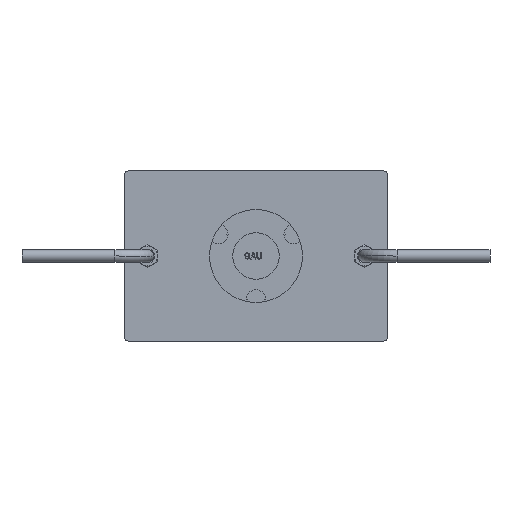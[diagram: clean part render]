
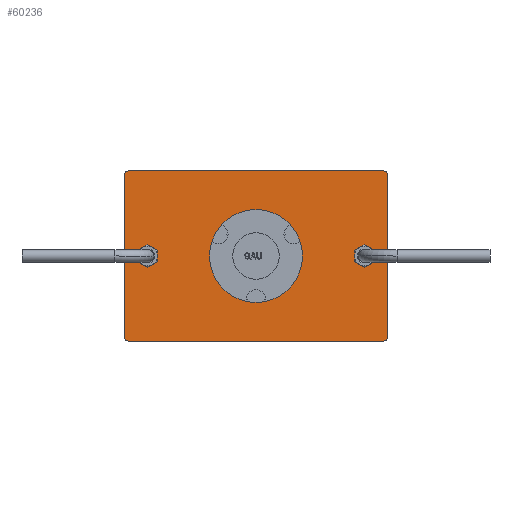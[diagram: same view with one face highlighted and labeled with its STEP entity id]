
A CAD part, front view. The second image highlights one B-rep face of the part: STEP entity #60236.
In plain terms, the highlighted planar face has unit normal (0, -1, 0) as drawn and (0, 0, 1) by its records, which use the part's own axes.
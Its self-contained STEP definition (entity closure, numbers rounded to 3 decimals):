
#59944=CARTESIAN_POINT('',(52.,82.,2.));
#59945=DIRECTION('',(0.,0.,1.));
#59946=DIRECTION('',(1.,0.,0.));
#59947=AXIS2_PLACEMENT_3D('',#59944,#59945,#59946);
#59949=DIRECTION('',(0.,1.,0.));
#59950=VECTOR('',#59949,164.);
#59951=CARTESIAN_POINT('',(55.,-82.,2.));
#59952=LINE('',#59951,#59950);
#59953=CARTESIAN_POINT('',(52.,-82.,2.));
#59954=DIRECTION('',(0.,0.,1.));
#59955=DIRECTION('',(0.,-1.,0.));
#59956=AXIS2_PLACEMENT_3D('',#59953,#59954,#59955);
#59958=DIRECTION('',(1.,0.,0.));
#59959=VECTOR('',#59958,104.);
#59960=CARTESIAN_POINT('',(-52.,-85.,2.));
#59961=LINE('',#59960,#59959);
#59962=CARTESIAN_POINT('',(-52.,-82.,2.));
#59963=DIRECTION('',(0.,0.,1.));
#59964=DIRECTION('',(-1.,0.,0.));
#59965=AXIS2_PLACEMENT_3D('',#59962,#59963,#59964);
#59967=DIRECTION('',(0.,-1.,0.));
#59968=VECTOR('',#59967,164.);
#59969=CARTESIAN_POINT('',(-55.,82.,2.));
#59970=LINE('',#59969,#59968);
#59971=CARTESIAN_POINT('',(-52.,82.,2.));
#59972=DIRECTION('',(0.,0.,1.));
#59973=DIRECTION('',(0.,1.,0.));
#59974=AXIS2_PLACEMENT_3D('',#59971,#59972,#59973);
#59976=DIRECTION('',(-1.,0.,0.));
#59977=VECTOR('',#59976,104.);
#59978=CARTESIAN_POINT('',(52.,85.,2.));
#59979=LINE('',#59978,#59977);
#59980=CARTESIAN_POINT('',(0.,70.,2.));
#59981=DIRECTION('',(0.,0.,-1.));
#59982=DIRECTION('',(1.,0.,0.));
#59983=AXIS2_PLACEMENT_3D('',#59980,#59981,#59982);
#59985=CARTESIAN_POINT('',(0.,70.,2.));
#59986=DIRECTION('',(0.,0.,-1.));
#59987=DIRECTION('',(-1.,0.,0.));
#59988=AXIS2_PLACEMENT_3D('',#59985,#59986,#59987);
#59990=CARTESIAN_POINT('',(0.,-70.,2.));
#59991=DIRECTION('',(0.,0.,-1.));
#59992=DIRECTION('',(1.,0.,0.));
#59993=AXIS2_PLACEMENT_3D('',#59990,#59991,#59992);
#59995=CARTESIAN_POINT('',(0.,-70.,2.));
#59996=DIRECTION('',(0.,0.,-1.));
#59997=DIRECTION('',(-1.,0.,0.));
#59998=AXIS2_PLACEMENT_3D('',#59995,#59996,#59997);
#60000=CARTESIAN_POINT('',(0.,0.,2.));
#60001=DIRECTION('',(0.,0.,-1.));
#60002=DIRECTION('',(1.,0.,0.));
#60003=AXIS2_PLACEMENT_3D('',#60000,#60001,#60002);
#60005=CARTESIAN_POINT('',(0.,0.,2.));
#60006=DIRECTION('',(0.,0.,-1.));
#60007=DIRECTION('',(-1.,0.,0.));
#60008=AXIS2_PLACEMENT_3D('',#60005,#60006,#60007);
#60124=CARTESIAN_POINT('',(-30.,0.,2.));
#60125=CARTESIAN_POINT('',(30.,0.,2.));
#60126=VERTEX_POINT('',#60124);
#60127=VERTEX_POINT('',#60125);
#60128=CARTESIAN_POINT('',(52.,-85.,2.));
#60129=CARTESIAN_POINT('',(55.,-82.,2.));
#60130=VERTEX_POINT('',#60128);
#60131=VERTEX_POINT('',#60129);
#60133=CARTESIAN_POINT('',(-52.,-85.,2.));
#60135=VERTEX_POINT('',#60133);
#60143=CARTESIAN_POINT('',(52.,85.,2.));
#60145=VERTEX_POINT('',#60143);
#60148=CARTESIAN_POINT('',(55.,82.,2.));
#60149=VERTEX_POINT('',#60148);
#60150=CARTESIAN_POINT('',(-55.,82.,2.));
#60151=CARTESIAN_POINT('',(-55.,-82.,2.));
#60152=VERTEX_POINT('',#60150);
#60153=VERTEX_POINT('',#60151);
#60156=CARTESIAN_POINT('',(-52.,85.,2.));
#60157=VERTEX_POINT('',#60156);
#60166=CARTESIAN_POINT('',(-4.1,-70.,2.));
#60167=VERTEX_POINT('',#60166);
#60168=CARTESIAN_POINT('',(4.1,-70.,2.));
#60169=VERTEX_POINT('',#60168);
#60170=CARTESIAN_POINT('',(4.1,70.,2.));
#60171=CARTESIAN_POINT('',(-4.1,70.,2.));
#60172=VERTEX_POINT('',#60170);
#60173=VERTEX_POINT('',#60171);
#60196=CARTESIAN_POINT('',(0.,0.,2.));
#60197=DIRECTION('',(0.,0.,1.));
#60198=DIRECTION('',(1.,0.,0.));
#60199=AXIS2_PLACEMENT_3D('',#60196,#60197,#60198);
#60200=PLANE('',#60199);
#60202=ORIENTED_EDGE('',*,*,#60201,.F.);
#60204=ORIENTED_EDGE('',*,*,#60203,.F.);
#60205=ORIENTED_EDGE('',*,*,#60185,.F.);
#60207=ORIENTED_EDGE('',*,*,#60206,.F.);
#60209=ORIENTED_EDGE('',*,*,#60208,.F.);
#60211=ORIENTED_EDGE('',*,*,#60210,.F.);
#60213=ORIENTED_EDGE('',*,*,#60212,.F.);
#60215=ORIENTED_EDGE('',*,*,#60214,.F.);
#60216=EDGE_LOOP('',(#60202,#60204,#60205,#60207,#60209,#60211,#60213,#60215));
#60217=FACE_OUTER_BOUND('',#60216,.F.);
#60219=ORIENTED_EDGE('',*,*,#60218,.F.);
#60221=ORIENTED_EDGE('',*,*,#60220,.F.);
#60222=EDGE_LOOP('',(#60219,#60221));
#60223=FACE_BOUND('',#60222,.F.);
#60225=ORIENTED_EDGE('',*,*,#60224,.F.);
#60227=ORIENTED_EDGE('',*,*,#60226,.F.);
#60228=EDGE_LOOP('',(#60225,#60227));
#60229=FACE_BOUND('',#60228,.F.);
#60231=ORIENTED_EDGE('',*,*,#60230,.F.);
#60233=ORIENTED_EDGE('',*,*,#60232,.F.);
#60234=EDGE_LOOP('',(#60231,#60233));
#60235=FACE_BOUND('',#60234,.F.);
#60236=ADVANCED_FACE('',(#60217,#60223,#60229,#60235),#60200,.T.);
#59948=CIRCLE('',#59947,3.);
#59957=CIRCLE('',#59956,3.);
#59966=CIRCLE('',#59965,3.);
#59975=CIRCLE('',#59974,3.);
#59984=CIRCLE('',#59983,4.1);
#59989=CIRCLE('',#59988,4.1);
#59994=CIRCLE('',#59993,4.1);
#59999=CIRCLE('',#59998,4.1);
#60004=CIRCLE('',#60003,30.);
#60009=CIRCLE('',#60008,30.);
#60185=EDGE_CURVE('',#60130,#60131,#59957,.T.);
#60201=EDGE_CURVE('',#60149,#60145,#59948,.T.);
#60203=EDGE_CURVE('',#60131,#60149,#59952,.T.);
#60206=EDGE_CURVE('',#60135,#60130,#59961,.T.);
#60208=EDGE_CURVE('',#60153,#60135,#59966,.T.);
#60210=EDGE_CURVE('',#60152,#60153,#59970,.T.);
#60212=EDGE_CURVE('',#60157,#60152,#59975,.T.);
#60214=EDGE_CURVE('',#60145,#60157,#59979,.T.);
#60218=EDGE_CURVE('',#60172,#60173,#59984,.T.);
#60220=EDGE_CURVE('',#60173,#60172,#59989,.T.);
#60224=EDGE_CURVE('',#60169,#60167,#59994,.T.);
#60226=EDGE_CURVE('',#60167,#60169,#59999,.T.);
#60230=EDGE_CURVE('',#60127,#60126,#60004,.T.);
#60232=EDGE_CURVE('',#60126,#60127,#60009,.T.);
